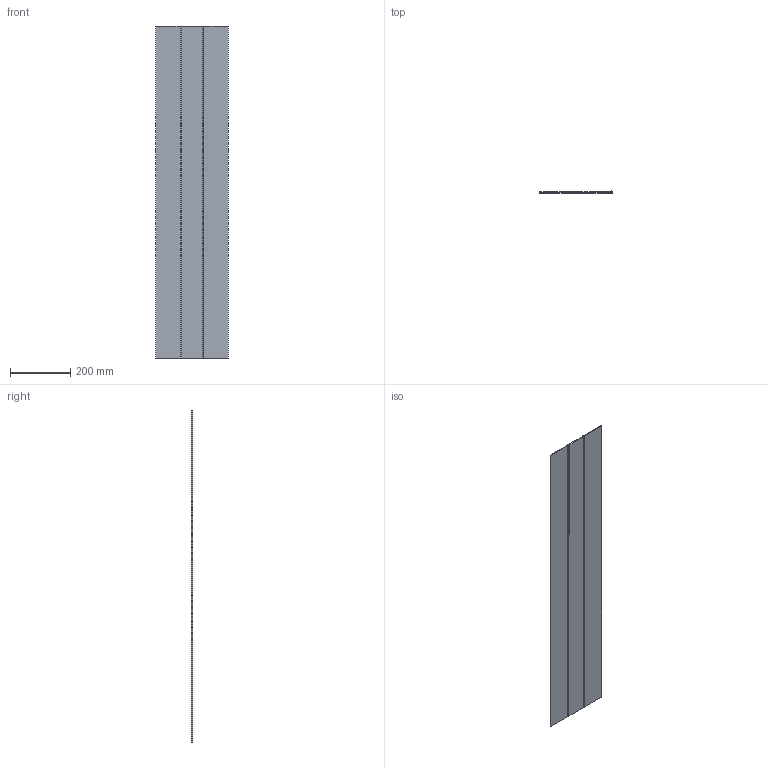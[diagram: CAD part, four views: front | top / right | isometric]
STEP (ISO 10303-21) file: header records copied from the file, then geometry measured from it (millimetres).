
FILE_DESCRIPTION (( 'STEP AP203' ), '1' );
FILE_NAME ('DN53518.STEP', '2025-10-31T07:15:47', ( '' ), ( '' ), 'SwSTEP 2.0', 'SolidWorks 2019', '' );
FILE_SCHEMA (( 'CONFIG_CONTROL_DESIGN' ));
Length unit declared in the file: millimetre
Products named in the file (1): DN53518
Bounding box: 240 x 4.97 x 1100 mm (x, y, z)
Volume: 793837.9 mm3; surface area: 552428.3 mm2
Topology: 1 solids, 1 shells, 47 faces, 135 edges, 90 vertices
Faces by surface type: plane 38, cylinder 9
Entity records: 1604 total; most frequent: CARTESIAN_POINT 273, ORIENTED_EDGE 270, DIRECTION 249, EDGE_CURVE 135, LINE 117, VECTOR 117, VERTEX_POINT 90, AXIS2_PLACEMENT_3D 66
